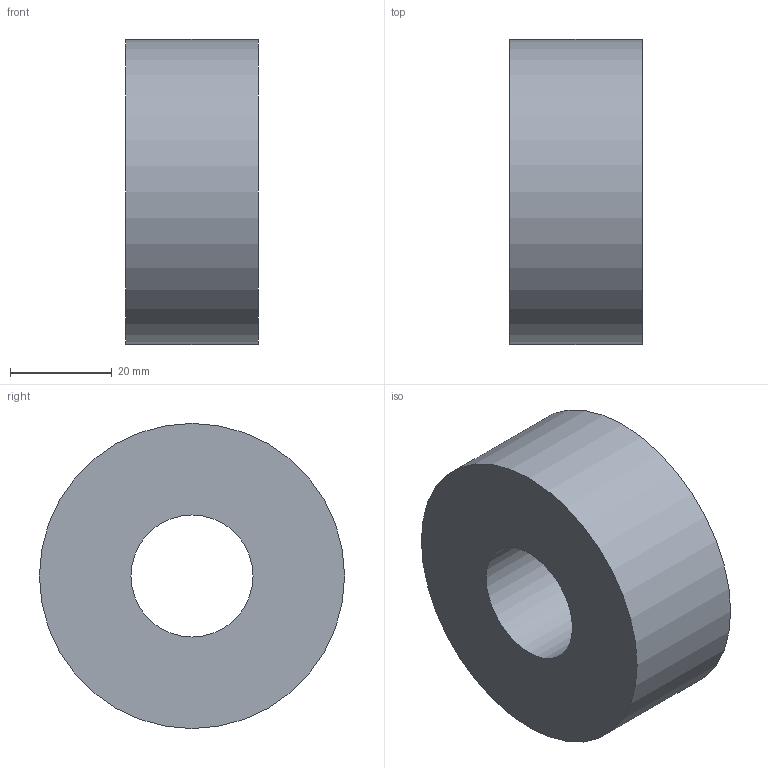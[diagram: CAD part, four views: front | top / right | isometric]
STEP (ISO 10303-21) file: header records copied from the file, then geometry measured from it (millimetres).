
FILE_DESCRIPTION(('Open CASCADE Model'),'2;1');
FILE_NAME('Open CASCADE Shape Model','2026-09-19T23:46:39',('Author'),( 'Open CASCADE'),'Open CASCADE STEP processor 7.9','Open CASCADE 7.9' ,'Unknown');
FILE_SCHEMA(('AUTOMOTIVE_DESIGN { 1 0 10303 214 1 1 1 1 }'));
Length unit declared in the file: millimetre
Products named in the file (1): Open CASCADE STEP translator 7.9 10
Bounding box: 26 x 60 x 60 mm (x, y, z)
Volume: 61751.1 mm3; surface area: 11611.3 mm2
Topology: 1 solids, 1 shells, 4 faces, 6 edges, 4 vertices
Faces by surface type: cylinder 2, plane 2
Full cylindrical faces by diameter (mm): 24 x1, 60 x1
Entity records: 186 total; most frequent: DIRECTION 32, CARTESIAN_POINT 27, ORIENTED_EDGE 12, PCURVE 12, DEFINITIONAL_REPRESENTATION 12, LINE 10, VECTOR 10, AXIS2_PLACEMENT_3D 9
